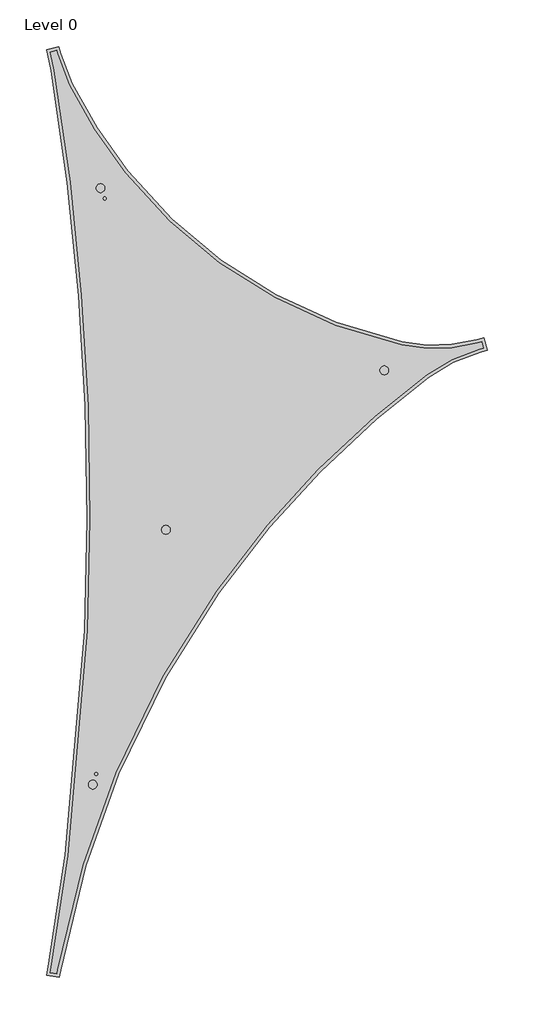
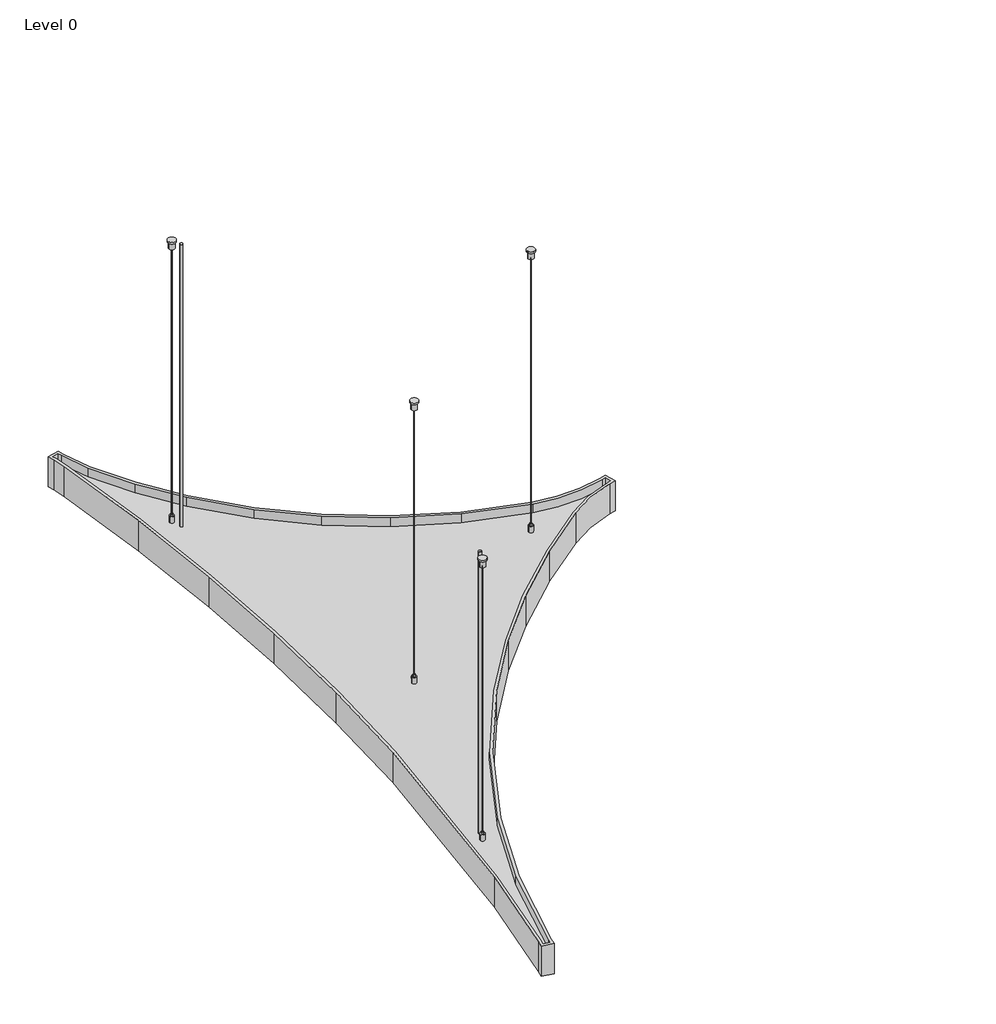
# One storey: 1 light fixture.
"""IFC4 building model written with IfcOpenShell, lengths in millimetres."""

from ifc_helpers import new_model, si_unit, origin, place, context, project, spatial, transform, mapped, element, save
from components import silver_anodized_3000_k_5140_lm_213de655

model = new_model("IFC4")

# Units and contexts
model_context = context("Model", 3, world=origin())
ifc_project = project(units=[si_unit("LENGTHUNIT", "METRE", prefix="MILLI")], contexts=[model_context])

# Site, building, storey
site = spatial("IfcSite", under=ifc_project)
building = spatial("IfcBuilding", under=site)
storey = spatial("IfcBuildingStorey", under=building, Name="Level 0", Elevation=0.0)

# Light fixture
placement = place(None, origin())
silver_anodized_3000_k_5140_lm_shape = silver_anodized_3000_k_5140_lm_213de655(model_context)
element("IfcLightFixture", 1, ObjectType="KLUŚ - MIFOR - MI-SAIL-AR : Silver anodized - 3000 K - 5140 lm", at=placement, inside=storey, context=model_context, shape_type="MappedRepresentation", body=[
    mapped(silver_anodized_3000_k_5140_lm_shape, transform((0.0, 0.0, 555.0), x_axis=(1.0, 0.0, 0.0), y_axis=(0.0, -1.0, 0.0), z_axis=(0.0, 0.0, -1.0))),
])

save(model, "model.ifc")
